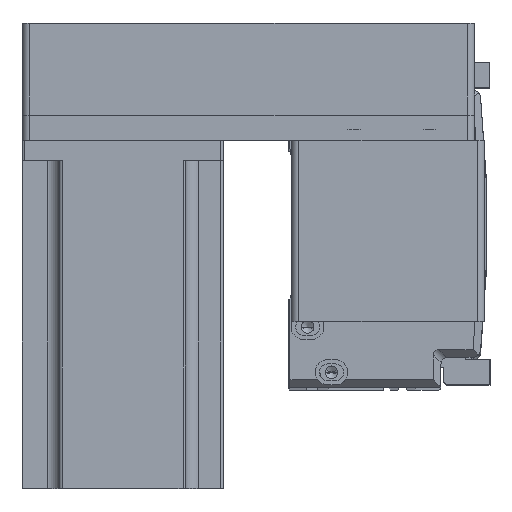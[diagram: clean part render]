
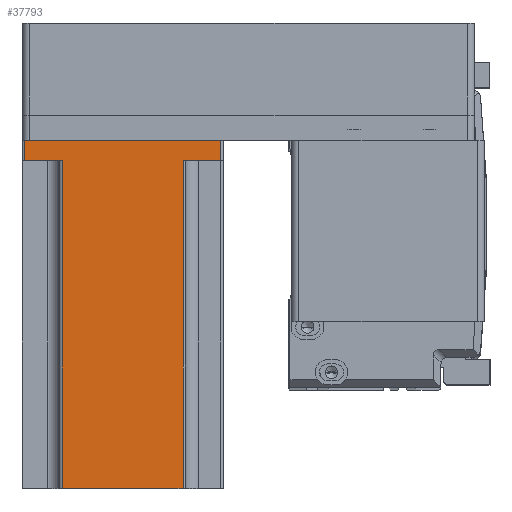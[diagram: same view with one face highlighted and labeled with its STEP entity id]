
A CAD part, top view. The second image highlights one B-rep face of the part: STEP entity #37793.
In plain terms, the highlighted planar face has unit normal (0, 0, 1) as drawn and (0, 1, 0) by its records, which use the part's own axes.
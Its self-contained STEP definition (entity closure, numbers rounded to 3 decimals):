
#608 = ORIENTED_EDGE ( 'NONE', *, *, #3911, .T. ) ;
#868 = EDGE_CURVE ( 'NONE', #39092, #20585, #10907, .T. ) ;
#1955 = EDGE_LOOP ( 'NONE', ( #39637, #35628, #20279, #12657, #31686, #608, #39617, #33871 ) ) ;
#2159 = VERTEX_POINT ( 'NONE', #23468 ) ;
#2996 = CARTESIAN_POINT ( 'NONE',  ( 40., 40., 138.3 ) ) ;
#3911 = EDGE_CURVE ( 'NONE', #42100, #18231, #6777, .T. ) ;
#5923 = EDGE_CURVE ( 'NONE', #2159, #6096, #33156, .T. ) ;
#6096 = VERTEX_POINT ( 'NONE', #40978 ) ;
#6488 = DIRECTION ( 'NONE',  ( 1., 0., 0. ) ) ;
#6753 = LINE ( 'NONE', #38684, #13877 ) ;
#6777 = LINE ( 'NONE', #36487, #33970 ) ;
#7440 = VECTOR ( 'NONE', #41527, 1000. ) ;
#7506 = EDGE_CURVE ( 'NONE', #6096, #20585, #24729, .T. ) ;
#7850 = DIRECTION ( 'NONE',  ( 1., 0., 0. ) ) ;
#8404 = DIRECTION ( 'NONE',  ( -1., 0., 0. ) ) ;
#8553 = LINE ( 'NONE', #30838, #7440 ) ;
#10347 = CARTESIAN_POINT ( 'NONE',  ( 24., 40., 138.3 ) ) ;
#10907 = LINE ( 'NONE', #27775, #28708 ) ;
#12657 = ORIENTED_EDGE ( 'NONE', *, *, #23104, .T. ) ;
#13833 = DIRECTION ( 'NONE',  ( 0., 0., 1. ) ) ;
#13877 = VECTOR ( 'NONE', #13833, 1000. ) ;
#13884 = CARTESIAN_POINT ( 'NONE',  ( 39., 40., 8. ) ) ;
#14273 = VERTEX_POINT ( 'NONE', #21945 ) ;
#14689 = DIRECTION ( 'NONE',  ( 0., 0., 1. ) ) ;
#15242 = VECTOR ( 'NONE', #14689, 1000. ) ;
#16089 = EDGE_CURVE ( 'NONE', #43371, #2159, #6753, .T. ) ;
#17385 = DIRECTION ( 'NONE',  ( -1., 0., 0. ) ) ;
#18231 = VERTEX_POINT ( 'NONE', #22151 ) ;
#18958 = CARTESIAN_POINT ( 'NONE',  ( 25., 40., 8. ) ) ;
#19039 = EDGE_CURVE ( 'NONE', #18231, #43371, #8553, .T. ) ;
#20279 = ORIENTED_EDGE ( 'NONE', *, *, #868, .F. ) ;
#20301 = DIRECTION ( 'NONE',  ( 0., 0., -1. ) ) ;
#20585 = VERTEX_POINT ( 'NONE', #31388 ) ;
#20590 = LINE ( 'NONE', #18958, #44028 ) ;
#21945 = CARTESIAN_POINT ( 'NONE',  ( 24., 40., 8. ) ) ;
#22066 = AXIS2_PLACEMENT_3D ( 'NONE', #2996, #27764, #6488 ) ;
#22151 = CARTESIAN_POINT ( 'NONE',  ( 39., 40., 0. ) ) ;
#22508 = VECTOR ( 'NONE', #7850, 1000. ) ;
#23104 = EDGE_CURVE ( 'NONE', #39092, #14273, #25068, .T. ) ;
#23468 = CARTESIAN_POINT ( 'NONE',  ( -39., 40., 8. ) ) ;
#24461 = EDGE_CURVE ( 'NONE', #42100, #14273, #20590, .T. ) ;
#24708 = CARTESIAN_POINT ( 'NONE',  ( 24., 40., 138.3 ) ) ;
#24729 = LINE ( 'NONE', #32338, #15242 ) ;
#25068 = LINE ( 'NONE', #10347, #33451 ) ;
#27764 = DIRECTION ( 'NONE',  ( 0., -1., 0. ) ) ;
#27775 = CARTESIAN_POINT ( 'NONE',  ( 40., 40., 138.3 ) ) ;
#28708 = VECTOR ( 'NONE', #17385, 1000. ) ;
#30838 = CARTESIAN_POINT ( 'NONE',  ( 40., 40., 0. ) ) ;
#31161 = PLANE ( 'NONE',  #22066 ) ;
#31388 = CARTESIAN_POINT ( 'NONE',  ( -24., 40., 138.3 ) ) ;
#31686 = ORIENTED_EDGE ( 'NONE', *, *, #24461, .F. ) ;
#32338 = CARTESIAN_POINT ( 'NONE',  ( -24., 40., 138.3 ) ) ;
#32664 = CARTESIAN_POINT ( 'NONE',  ( -25., 40., 8. ) ) ;
#33156 = LINE ( 'NONE', #32664, #22508 ) ;
#33451 = VECTOR ( 'NONE', #38710, 1000. ) ;
#33871 = ORIENTED_EDGE ( 'NONE', *, *, #16089, .T. ) ;
#33970 = VECTOR ( 'NONE', #20301, 1000. ) ;
#34736 = FACE_OUTER_BOUND ( 'NONE', #1955, .T. ) ;
#35628 = ORIENTED_EDGE ( 'NONE', *, *, #7506, .T. ) ;
#36487 = CARTESIAN_POINT ( 'NONE',  ( 39., 40., 138.3 ) ) ;
#37793 = ADVANCED_FACE ( 'NONE', ( #34736 ), #31161, .F. ) ;
#38684 = CARTESIAN_POINT ( 'NONE',  ( -39., 40., 138.3 ) ) ;
#38710 = DIRECTION ( 'NONE',  ( 0., 0., -1. ) ) ;
#39092 = VERTEX_POINT ( 'NONE', #24708 ) ;
#39112 = CARTESIAN_POINT ( 'NONE',  ( -39., 40., 0. ) ) ;
#39617 = ORIENTED_EDGE ( 'NONE', *, *, #19039, .T. ) ;
#39637 = ORIENTED_EDGE ( 'NONE', *, *, #5923, .T. ) ;
#40978 = CARTESIAN_POINT ( 'NONE',  ( -24., 40., 8. ) ) ;
#41527 = DIRECTION ( 'NONE',  ( -1., 0., 0. ) ) ;
#42100 = VERTEX_POINT ( 'NONE', #13884 ) ;
#43371 = VERTEX_POINT ( 'NONE', #39112 ) ;
#44028 = VECTOR ( 'NONE', #8404, 1000. ) ;
